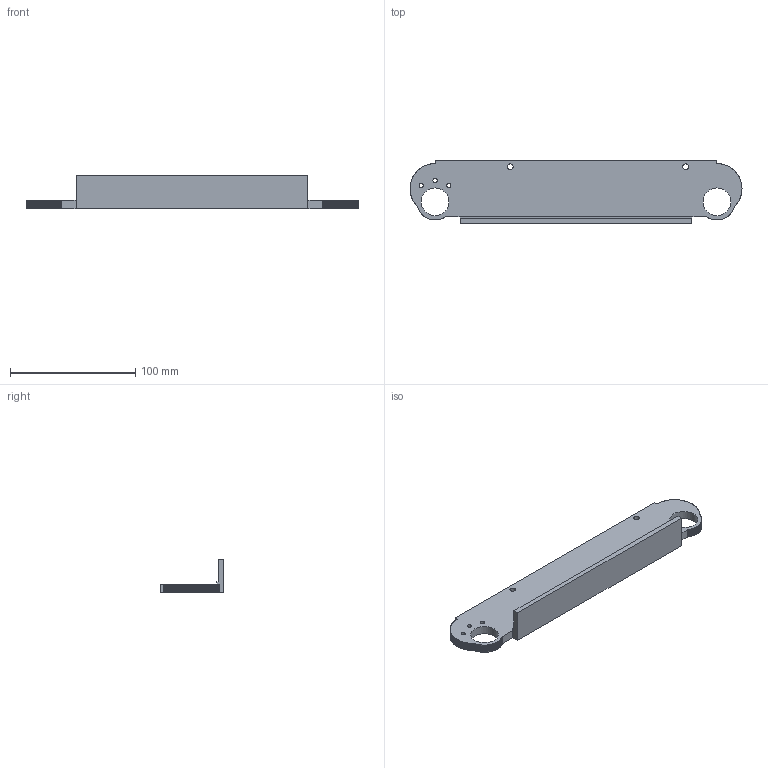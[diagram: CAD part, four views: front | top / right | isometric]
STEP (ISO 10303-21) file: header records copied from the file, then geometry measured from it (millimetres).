
FILE_DESCRIPTION(('Open CASCADE Model'),'2;1');
FILE_NAME('Open CASCADE Shape Model','2026-10-15T02:45:44',('Author'),( 'Open CASCADE'),'Open CASCADE STEP processor 7.9','Open CASCADE 7.9' ,'Unknown');
FILE_SCHEMA(('AUTOMOTIVE_DESIGN { 1 0 10303 214 1 1 1 1 }'));
Length unit declared in the file: millimetre
Products named in the file (1): Open CASCADE STEP translator 7.9 3
Bounding box: 265 x 50.34 x 27 mm (x, y, z)
Volume: 97023.3 mm3; surface area: 36509.3 mm2
Topology: 1 solids, 1 shells, 285 faces, 847 edges, 564 vertices
Faces by surface type: plane 278, cylinder 7
Full cylindrical faces by diameter (mm): 3.4 x3, 4.5 x2, 22.2 x2
Entity records: 20408 total; most frequent: CARTESIAN_POINT 3391, DIRECTION 3127, LINE 2513, VECTOR 2513, ORIENTED_EDGE 1694, PCURVE 1694, DEFINITIONAL_REPRESENTATION 1694, EDGE_CURVE 847
